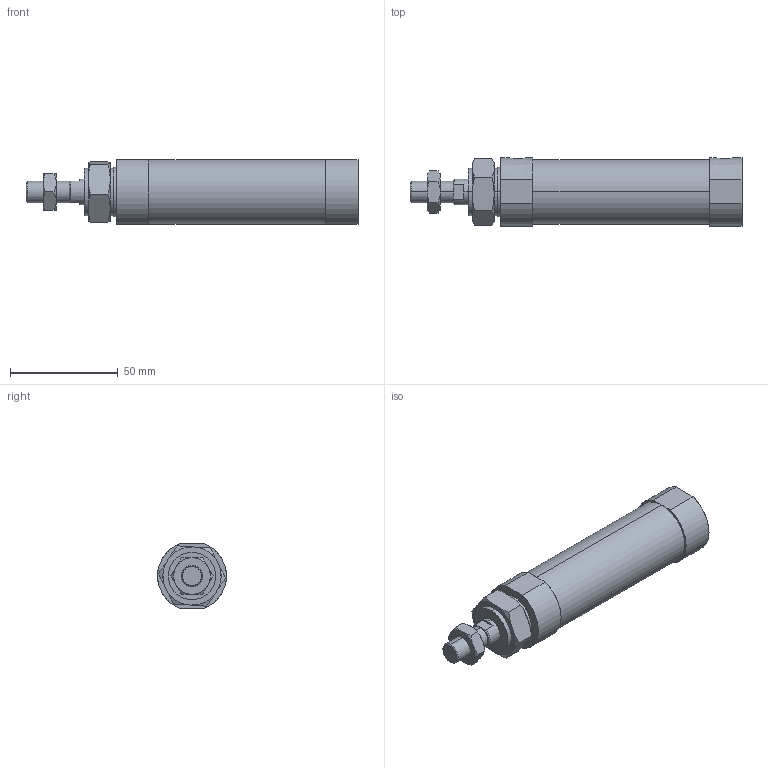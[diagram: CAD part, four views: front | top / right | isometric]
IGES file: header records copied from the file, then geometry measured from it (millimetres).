
Start section: SolidWorks IGES file using analytic representation for surfaces
Global section: file name: C:\Users\Toshiba\Desktop\JGND2-25-50-N.IGS; native system: SolidWorks 2014; preprocessor: SolidWorks 2014; author: Toshiba; date: 160804.103705; units: millimetre
Bounding box: 154 x 32 x 30 mm (x, y, z)
Surface area: 18633.9 mm2 (no closed solid volume)
Topology: 0 solids, 0 shells, 89 faces, 1592 edges, 1588 vertices
Faces by surface type: bspline 59, revolution 30
